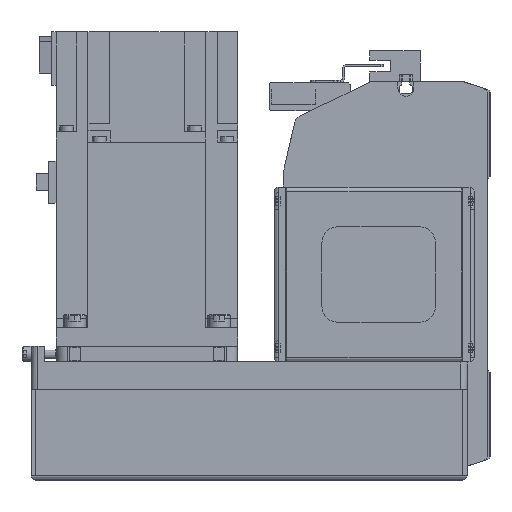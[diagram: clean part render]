
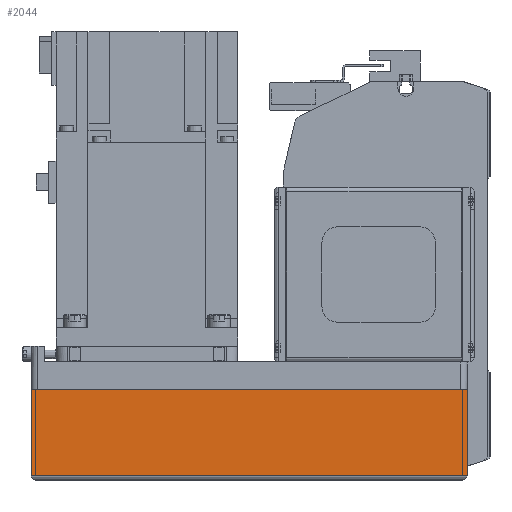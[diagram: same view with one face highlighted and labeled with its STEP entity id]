
A CAD part, left-side view. The second image highlights one B-rep face of the part: STEP entity #2044.
In plain terms, the highlighted planar face has unit normal (-1, 0, 0) as drawn and (0, -1, 0) by its records, which use the part's own axes.
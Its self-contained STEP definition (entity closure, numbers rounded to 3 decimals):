
#2044 = ADVANCED_FACE( '', ( #4837 ), #4838, .T. );
#4837 = FACE_OUTER_BOUND( '', #8517, .T. );
#4838 = PLANE( '', #8518 );
#8517 = EDGE_LOOP( '', ( #14484, #14485, #14486, #14487 ) );
#8518 = AXIS2_PLACEMENT_3D( '', #14488, #14489, #14490 );
#14484 = ORIENTED_EDGE( '', *, *, #21820, .F. );
#14485 = ORIENTED_EDGE( '', *, *, #22662, .F. );
#14486 = ORIENTED_EDGE( '', *, *, #21806, .T. );
#14487 = ORIENTED_EDGE( '', *, *, #22078, .T. );
#14488 = CARTESIAN_POINT( '', ( -192., -40., -12.1 ) );
#14489 = DIRECTION( '', ( 0., -1., 0. ) );
#14490 = DIRECTION( '', ( 0., 0., -1. ) );
#21806 = EDGE_CURVE( '', #26461, #26459, #26462, .T. );
#21820 = EDGE_CURVE( '', #26485, #25208, #26486, .T. );
#22078 = EDGE_CURVE( '', #26459, #25208, #26905, .T. );
#22662 = EDGE_CURVE( '', #26461, #26485, #27802, .T. );
#25208 = VERTEX_POINT( '', #31507 );
#26459 = VERTEX_POINT( '', #33601 );
#26461 = VERTEX_POINT( '', #33604 );
#26462 = LINE( '', #33605, #33606 );
#26485 = VERTEX_POINT( '', #33636 );
#26486 = LINE( '', #33637, #33638 );
#26905 = LINE( '', #34245, #34246 );
#27802 = LINE( '', #35564, #35565 );
#31507 = CARTESIAN_POINT( '', ( 0., -40., -50. ) );
#33601 = CARTESIAN_POINT( '', ( -192., -40., -50. ) );
#33604 = CARTESIAN_POINT( '', ( -192., -40., -12.1 ) );
#33605 = CARTESIAN_POINT( '', ( -192., -40., -12.1 ) );
#33606 = VECTOR( '', #40310, 1000. );
#33636 = CARTESIAN_POINT( '', ( 0., -40., -12.1 ) );
#33637 = CARTESIAN_POINT( '', ( 0., -40., -12.1 ) );
#33638 = VECTOR( '', #40327, 1000. );
#34245 = CARTESIAN_POINT( '', ( -192., -40., -50. ) );
#34246 = VECTOR( '', #40673, 1000. );
#35564 = CARTESIAN_POINT( '', ( -192., -40., -12.1 ) );
#35565 = VECTOR( '', #41426, 1000. );
#40310 = DIRECTION( '', ( 0., 0., -1. ) );
#40327 = DIRECTION( '', ( 0., 0., -1. ) );
#40673 = DIRECTION( '', ( 1., 0., 0. ) );
#41426 = DIRECTION( '', ( 1., 0., 0. ) );
